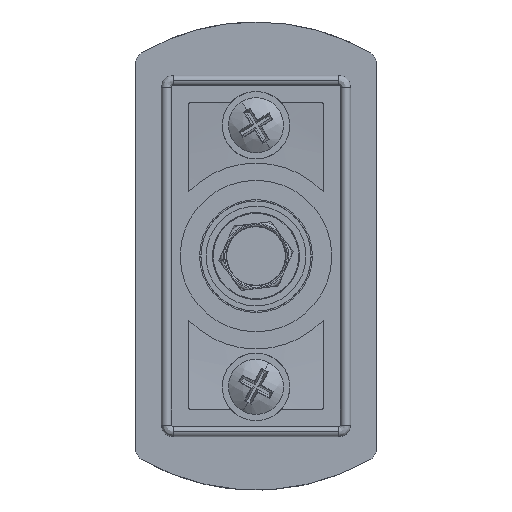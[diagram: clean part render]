
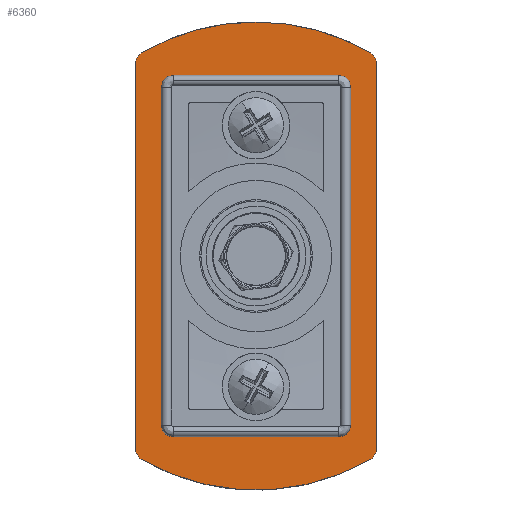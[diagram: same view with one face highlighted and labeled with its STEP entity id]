
A CAD part, front view. The second image highlights one B-rep face of the part: STEP entity #6360.
In plain terms, the highlighted planar face has unit normal (0, -1, 0).
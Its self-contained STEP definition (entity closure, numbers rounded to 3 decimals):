
#2805 = CARTESIAN_POINT ( 'NONE',  ( 236.553, 238.411, 4.445 ) ) ;
#2985 = DIRECTION ( 'NONE',  ( 0., 0., 1. ) ) ;
#2986 = DIRECTION ( 'NONE',  ( 0., 1., 0. ) ) ;
#2987 = AXIS2_PLACEMENT_3D ( 'NONE', #2995, #2986, #2985 ) ;
#2988 = CIRCLE ( 'NONE', #2987, 33.125 ) ;
#2995 = CARTESIAN_POINT ( 'NONE',  ( 253.208, 238.411, -24.189 ) ) ;
#3071 = CARTESIAN_POINT ( 'NONE',  ( 266.958, 238.411, -49.614 ) ) ;
#3074 = CARTESIAN_POINT ( 'NONE',  ( 241.158, 238.411, 1.186 ) ) ;
#3095 = CARTESIAN_POINT ( 'NONE',  ( 253.208, 238.411, 8.936 ) ) ;
#3199 = CARTESIAN_POINT ( 'NONE',  ( 239.458, 238.411, -0.514 ) ) ;
#3207 = DIRECTION ( 'NONE',  ( 0., 0., 1. ) ) ;
#3208 = VECTOR ( 'NONE', #3207, 1000. ) ;
#3219 = CARTESIAN_POINT ( 'NONE',  ( 235.708, 238.411, -53.103 ) ) ;
#3221 = CARTESIAN_POINT ( 'NONE',  ( 239.458, 238.411, -29.079 ) ) ;
#3222 = LINE ( 'NONE', #3221, #3208 ) ;
#3244 = AXIS2_PLACEMENT_3D ( 'NONE', #3340, #3336, #3335 ) ;
#3246 = CARTESIAN_POINT ( 'NONE',  ( 269.008, 238.411, -53.103 ) ) ;
#3247 = DIRECTION ( 'NONE',  ( 0., 0., 1. ) ) ;
#3248 = DIRECTION ( 'NONE',  ( 0., 1., 0. ) ) ;
#3249 = AXIS2_PLACEMENT_3D ( 'NONE', #3265, #3248, #3247 ) ;
#3250 = AXIS2_PLACEMENT_3D ( 'NONE', #3246, #3342, #3341 ) ;
#3253 = CARTESIAN_POINT ( 'NONE',  ( 269.863, 238.411, -54.572 ) ) ;
#3254 = CARTESIAN_POINT ( 'NONE',  ( 265.258, 238.411, -51.314 ) ) ;
#3255 = CARTESIAN_POINT ( 'NONE',  ( 270.708, 238.411, -53.103 ) ) ;
#3256 = DIRECTION ( 'NONE',  ( 0., 0., 1. ) ) ;
#3257 = CIRCLE ( 'NONE', #3249, 33.125 ) ;
#3264 = CARTESIAN_POINT ( 'NONE',  ( 241.158, 238.411, -49.614 ) ) ;
#3265 = CARTESIAN_POINT ( 'NONE',  ( 253.208, 238.411, -25.939 ) ) ;
#3266 = CIRCLE ( 'NONE', #3244, 1.7 ) ;
#3267 = AXIS2_PLACEMENT_3D ( 'NONE', #3264, #3270, #3256 ) ;
#3268 = CIRCLE ( 'NONE', #3250, 1.7 ) ;
#3270 = DIRECTION ( 'NONE',  ( 0., 1., 0. ) ) ;
#3272 = CIRCLE ( 'NONE', #3267, 1.7 ) ;
#3273 = CARTESIAN_POINT ( 'NONE',  ( 266.958, 238.411, -0.514 ) ) ;
#3275 = CARTESIAN_POINT ( 'NONE',  ( 239.458, 238.411, -49.614 ) ) ;
#3335 = DIRECTION ( 'NONE',  ( 0., 0., 1. ) ) ;
#3336 = DIRECTION ( 'NONE',  ( 0., 1., 0. ) ) ;
#3340 = CARTESIAN_POINT ( 'NONE',  ( 265.258, 238.411, -0.514 ) ) ;
#3341 = DIRECTION ( 'NONE',  ( 0., 0., 1. ) ) ;
#3342 = DIRECTION ( 'NONE',  ( 0., 1., 0. ) ) ;
#3361 = VECTOR ( 'NONE', #3362, 1000. ) ;
#3362 = DIRECTION ( 'NONE',  ( -1., 0., 0. ) ) ;
#3363 = CARTESIAN_POINT ( 'NONE',  ( 258.894, 238.411, -51.314 ) ) ;
#3364 = LINE ( 'NONE', #3363, #3361 ) ;
#3395 = CIRCLE ( 'NONE', #3464, 1.7 ) ;
#3423 = CIRCLE ( 'NONE', #3582, 1.7 ) ;
#3424 = CARTESIAN_POINT ( 'NONE',  ( 241.158, 238.411, -51.314 ) ) ;
#3448 = CARTESIAN_POINT ( 'NONE',  ( 236.553, 238.411, -54.572 ) ) ;
#3461 = DIRECTION ( 'NONE',  ( 0., 0., 1. ) ) ;
#3462 = DIRECTION ( 'NONE',  ( 0., -1., 0. ) ) ;
#3463 = CARTESIAN_POINT ( 'NONE',  ( 269.008, 238.411, 2.975 ) ) ;
#3464 = AXIS2_PLACEMENT_3D ( 'NONE', #3463, #3462, #3461 ) ;
#3475 = DIRECTION ( 'NONE',  ( 0., 0., 1. ) ) ;
#3476 = DIRECTION ( 'NONE',  ( 0., -1., 0. ) ) ;
#3479 = CARTESIAN_POINT ( 'NONE',  ( 270.708, 238.411, 2.975 ) ) ;
#3482 = CARTESIAN_POINT ( 'NONE',  ( 237.408, 238.411, 2.975 ) ) ;
#3483 = AXIS2_PLACEMENT_3D ( 'NONE', #3482, #3476, #3475 ) ;
#3484 = CIRCLE ( 'NONE', #3483, 1.7 ) ;
#3488 = CARTESIAN_POINT ( 'NONE',  ( 269.863, 238.411, 4.445 ) ) ;
#3501 = DIRECTION ( 'NONE',  ( 0., 0., 1. ) ) ;
#3502 = DIRECTION ( 'NONE',  ( 0., -1., 0. ) ) ;
#3503 = CARTESIAN_POINT ( 'NONE',  ( 237.408, 238.411, -53.103 ) ) ;
#3504 = AXIS2_PLACEMENT_3D ( 'NONE', #3503, #3502, #3501 ) ;
#3505 = CIRCLE ( 'NONE', #3504, 1.7 ) ;
#3550 = DIRECTION ( 'NONE',  ( 0., 0., -1. ) ) ;
#3551 = VECTOR ( 'NONE', #3550, 1000. ) ;
#3552 = CARTESIAN_POINT ( 'NONE',  ( 266.958, 238.411, -29.079 ) ) ;
#3553 = LINE ( 'NONE', #3552, #3551 ) ;
#3580 = DIRECTION ( 'NONE',  ( 0., 0., 1. ) ) ;
#3581 = DIRECTION ( 'NONE',  ( 0., 1., 0. ) ) ;
#3582 = AXIS2_PLACEMENT_3D ( 'NONE', #3596, #3581, #3580 ) ;
#3596 = CARTESIAN_POINT ( 'NONE',  ( 265.258, 238.411, -49.614 ) ) ;
#3608 = CARTESIAN_POINT ( 'NONE',  ( 235.708, 238.411, 2.975 ) ) ;
#3627 = CARTESIAN_POINT ( 'NONE',  ( 258.894, 238.411, 1.186 ) ) ;
#3628 = LINE ( 'NONE', #3627, #3642 ) ;
#3642 = VECTOR ( 'NONE', #3778, 1000. ) ;
#3648 = CARTESIAN_POINT ( 'NONE',  ( 265.258, 238.411, 1.186 ) ) ;
#3679 = PLANE ( 'NONE',  #3799 ) ;
#3742 = DIRECTION ( 'NONE',  ( 0., 0., -1. ) ) ;
#3743 = VECTOR ( 'NONE', #3742, 1000. ) ;
#3744 = CARTESIAN_POINT ( 'NONE',  ( 270.708, 238.411, -54.064 ) ) ;
#3745 = LINE ( 'NONE', #3744, #3743 ) ;
#3778 = DIRECTION ( 'NONE',  ( 1., 0., 0. ) ) ;
#3786 = DIRECTION ( 'NONE',  ( 0., 0., -1. ) ) ;
#3787 = DIRECTION ( 'NONE',  ( 0., -1., 0. ) ) ;
#3799 = AXIS2_PLACEMENT_3D ( 'NONE', #3804, #3787, #3786 ) ;
#3800 = FACE_OUTER_BOUND ( 'NONE', #6363, .T. ) ;
#3804 = CARTESIAN_POINT ( 'NONE',  ( 258.894, 238.411, -29.079 ) ) ;
#3810 = FACE_BOUND ( 'NONE', #6233, .T. ) ;
#3930 = DIRECTION ( 'NONE',  ( 0., 1., 0. ) ) ;
#3931 = CARTESIAN_POINT ( 'NONE',  ( 253.208, 238.411, -24.189 ) ) ;
#3932 = AXIS2_PLACEMENT_3D ( 'NONE', #3931, #3930, #3977 ) ;
#3977 = DIRECTION ( 'NONE',  ( 0., 0., 1. ) ) ;
#3988 = CIRCLE ( 'NONE', #3932, 33.125 ) ;
#4488 = DIRECTION ( 'NONE',  ( 0., 0., 1. ) ) ;
#4489 = DIRECTION ( 'NONE',  ( 0., 1., 0. ) ) ;
#4491 = DIRECTION ( 'NONE',  ( 0., 0., 1. ) ) ;
#4492 = VECTOR ( 'NONE', #4491, 1000. ) ;
#4493 = CARTESIAN_POINT ( 'NONE',  ( 235.708, 238.411, 3.936 ) ) ;
#4494 = LINE ( 'NONE', #4493, #4492 ) ;
#4495 = CIRCLE ( 'NONE', #4584, 1.7 ) ;
#4572 = CARTESIAN_POINT ( 'NONE',  ( 241.158, 238.411, -0.514 ) ) ;
#4584 = AXIS2_PLACEMENT_3D ( 'NONE', #4572, #4489, #4488 ) ;
#5774 = VERTEX_POINT ( 'NONE', #2805 ) ;
#5967 = EDGE_CURVE ( 'NONE', #5774, #5978, #2988, .T. ) ;
#5978 = VERTEX_POINT ( 'NONE', #3095 ) ;
#6026 = VERTEX_POINT ( 'NONE', #3199 ) ;
#6040 = EDGE_CURVE ( 'NONE', #6068, #6166, #3364, .T. ) ;
#6045 = EDGE_CURVE ( 'NONE', #6051, #6026, #3222, .T. ) ;
#6051 = VERTEX_POINT ( 'NONE', #3275 ) ;
#6053 = EDGE_CURVE ( 'NONE', #6166, #6051, #3272, .T. ) ;
#6054 = VERTEX_POINT ( 'NONE', #3219 ) ;
#6057 = ORIENTED_EDGE ( 'NONE', *, *, #6245, .T. ) ;
#6058 = VERTEX_POINT ( 'NONE', #3253 ) ;
#6059 = ORIENTED_EDGE ( 'NONE', *, *, #6063, .F. ) ;
#6060 = VERTEX_POINT ( 'NONE', #3255 ) ;
#6061 = EDGE_CURVE ( 'NONE', #6058, #6256, #3257, .T. ) ;
#6062 = ORIENTED_EDGE ( 'NONE', *, *, #6061, .F. ) ;
#6063 = EDGE_CURVE ( 'NONE', #6060, #6058, #3268, .T. ) ;
#6064 = ORIENTED_EDGE ( 'NONE', *, *, #6375, .F. ) ;
#6065 = VERTEX_POINT ( 'NONE', #3273 ) ;
#6066 = EDGE_CURVE ( 'NONE', #6288, #6065, #3266, .T. ) ;
#6068 = VERTEX_POINT ( 'NONE', #3254 ) ;
#6152 = VERTEX_POINT ( 'NONE', #3074 ) ;
#6153 = VERTEX_POINT ( 'NONE', #3071 ) ;
#6165 = EDGE_CURVE ( 'NONE', #6153, #6068, #3423, .T. ) ;
#6166 = VERTEX_POINT ( 'NONE', #3424 ) ;
#6226 = VERTEX_POINT ( 'NONE', #3608 ) ;
#6228 = EDGE_CURVE ( 'NONE', #6054, #6256, #3505, .T. ) ;
#6232 = ORIENTED_EDGE ( 'NONE', *, *, #6045, .T. ) ;
#6233 = EDGE_LOOP ( 'NONE', ( #6232, #6238, #6361, #6237, #6365, #6367, #6362, #6631 ) ) ;
#6237 = ORIENTED_EDGE ( 'NONE', *, *, #6066, .T. ) ;
#6238 = ORIENTED_EDGE ( 'NONE', *, *, #6634, .T. ) ;
#6245 = EDGE_CURVE ( 'NONE', #5774, #6226, #3484, .T. ) ;
#6250 = EDGE_CURVE ( 'NONE', #6251, #6252, #3395, .T. ) ;
#6251 = VERTEX_POINT ( 'NONE', #3479 ) ;
#6252 = VERTEX_POINT ( 'NONE', #3488 ) ;
#6256 = VERTEX_POINT ( 'NONE', #3448 ) ;
#6269 = EDGE_CURVE ( 'NONE', #6065, #6153, #3553, .T. ) ;
#6288 = VERTEX_POINT ( 'NONE', #3648 ) ;
#6291 = EDGE_CURVE ( 'NONE', #6152, #6288, #3628, .T. ) ;
#6350 = ORIENTED_EDGE ( 'NONE', *, *, #6442, .F. ) ;
#6360 = ADVANCED_FACE ( 'NONE', ( #3810, #3800 ), #3679, .T. ) ;
#6361 = ORIENTED_EDGE ( 'NONE', *, *, #6291, .T. ) ;
#6362 = ORIENTED_EDGE ( 'NONE', *, *, #6040, .T. ) ;
#6363 = EDGE_LOOP ( 'NONE', ( #6366, #6057, #6632, #6364, #6062, #6059, #6064, #6446, #6350 ) ) ;
#6364 = ORIENTED_EDGE ( 'NONE', *, *, #6228, .T. ) ;
#6365 = ORIENTED_EDGE ( 'NONE', *, *, #6269, .T. ) ;
#6366 = ORIENTED_EDGE ( 'NONE', *, *, #5967, .F. ) ;
#6367 = ORIENTED_EDGE ( 'NONE', *, *, #6165, .T. ) ;
#6375 = EDGE_CURVE ( 'NONE', #6251, #6060, #3745, .T. ) ;
#6442 = EDGE_CURVE ( 'NONE', #5978, #6252, #3988, .T. ) ;
#6446 = ORIENTED_EDGE ( 'NONE', *, *, #6250, .T. ) ;
#6631 = ORIENTED_EDGE ( 'NONE', *, *, #6053, .T. ) ;
#6632 = ORIENTED_EDGE ( 'NONE', *, *, #6633, .F. ) ;
#6633 = EDGE_CURVE ( 'NONE', #6054, #6226, #4494, .T. ) ;
#6634 = EDGE_CURVE ( 'NONE', #6026, #6152, #4495, .T. ) ;
